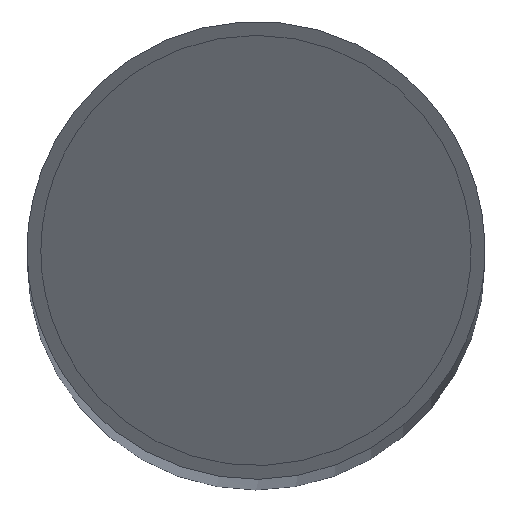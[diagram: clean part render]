
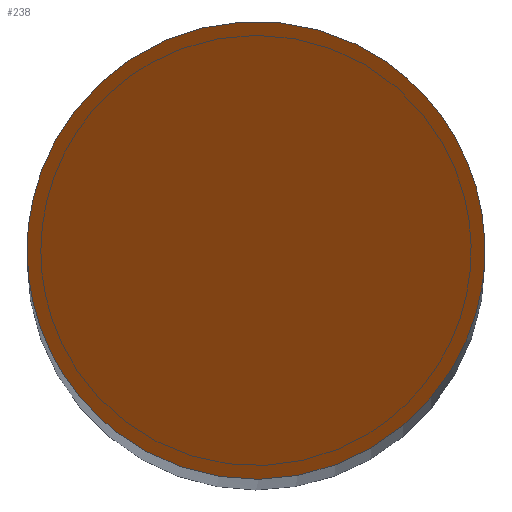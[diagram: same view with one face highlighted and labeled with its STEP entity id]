
A CAD part, top view. The second image highlights one B-rep face of the part: STEP entity #238.
In plain terms, the highlighted planar face has unit normal (-0.707, 0, 0.707).
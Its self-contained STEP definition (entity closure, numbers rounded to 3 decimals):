
#20=ELLIPSE('',#299,70.711,50.);
#21=ELLIPSE('',#300,70.711,50.);
#44=PLANE('',#301);
#69=FACE_OUTER_BOUND('',#92,.T.);
#92=EDGE_LOOP('',(#217,#218,#219));
#100=LINE('',#449,#109);
#109=VECTOR('',#377,10.);
#139=VERTEX_POINT('',#447);
#140=VERTEX_POINT('',#448);
#141=VERTEX_POINT('',#452);
#163=EDGE_CURVE('',#139,#140,#100,.T.);
#165=EDGE_CURVE('',#140,#141,#20,.T.);
#166=EDGE_CURVE('',#141,#139,#21,.T.);
#217=ORIENTED_EDGE('',*,*,#165,.T.);
#218=ORIENTED_EDGE('',*,*,#166,.T.);
#219=ORIENTED_EDGE('',*,*,#163,.T.);
#238=ADVANCED_FACE('',(#69),#44,.T.);
#299=AXIS2_PLACEMENT_3D('',#453,#382,#383);
#300=AXIS2_PLACEMENT_3D('',#454,#384,#385);
#301=AXIS2_PLACEMENT_3D('',#456,#387,#388);
#377=DIRECTION('',(0.,1.,0.));
#382=DIRECTION('center_axis',(-0.707,0.,0.707));
#383=DIRECTION('ref_axis',(0.707,0.,0.707));
#384=DIRECTION('center_axis',(-0.707,0.,0.707));
#385=DIRECTION('ref_axis',(0.707,0.,0.707));
#387=DIRECTION('center_axis',(-0.707,0.,0.707));
#388=DIRECTION('ref_axis',(0.707,0.,0.707));
#447=CARTESIAN_POINT('',(49.936,-2.527,1385.));
#448=CARTESIAN_POINT('',(49.936,2.527,1385.));
#449=CARTESIAN_POINT('',(49.936,0.,1385.));
#452=CARTESIAN_POINT('',(-50.,0.,1285.064));
#453=CARTESIAN_POINT('Origin',(0.,0.,1335.064));
#454=CARTESIAN_POINT('Origin',(0.,0.,1335.064));
#456=CARTESIAN_POINT('Origin',(-12.532,0.,1322.532));
